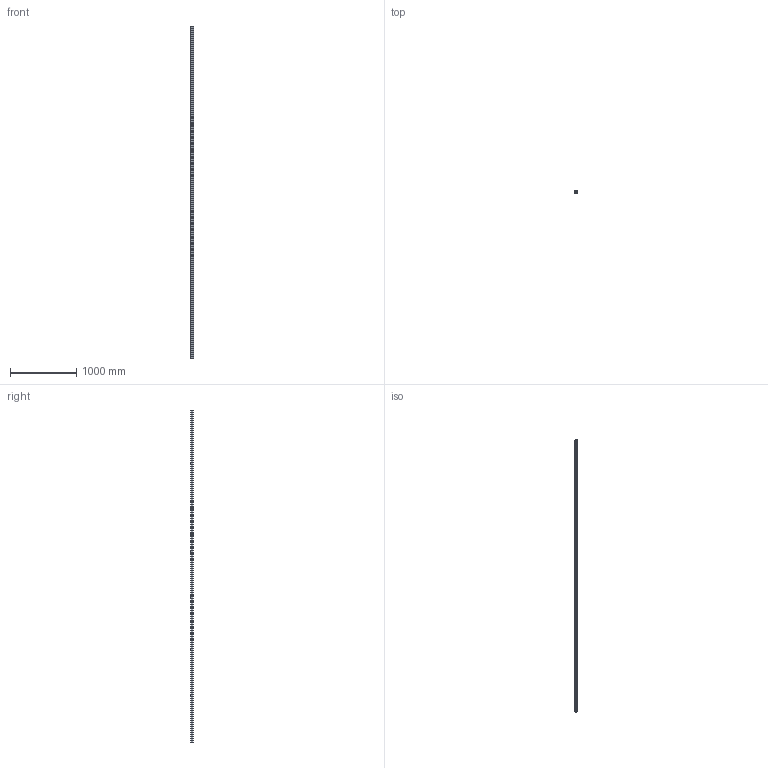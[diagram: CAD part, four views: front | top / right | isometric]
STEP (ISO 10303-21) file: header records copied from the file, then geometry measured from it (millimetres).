
FILE_DESCRIPTION(/* description */ ('Profilrohr Nr.2 - 5m'),/* implementation_level */ '2;1');
FILE_NAME(/* name */ 'C:\Users\avlesti\Desktop\Trace Part Bauteilefamilien\2 Tabelle Laufrohr 5 Meter\T011337023.stp',/* time_stamp */ '2020-05-05T08:35:58+02:00',/* author */ ('avlesti'),/* organization */ (''),/* preprocessor_version */ 'ST-DEVELOPER v17.2',/* originating_system */ 'Autodesk Inventor 2019',/* authorisation */ '');
FILE_SCHEMA (('AUTOMOTIVE_DESIGN { 1 0 10303 214 3 1 1 }'));
Length unit declared in the file: millimetre
Products named in the file (1): 011337023
Bounding box: 48 x 43 x 5000 mm (x, y, z)
Volume: 2205282.8 mm3; surface area: 1411187.7 mm2
Topology: 1 solids, 1 shells, 60 faces, 156 edges, 104 vertices
Faces by surface type: plane 48, cylinder 12
Entity records: 1865 total; most frequent: CARTESIAN_POINT 321, ORIENTED_EDGE 312, DIRECTION 302, EDGE_CURVE 156, LINE 132, VECTOR 132, VERTEX_POINT 104, AXIS2_PLACEMENT_3D 85
